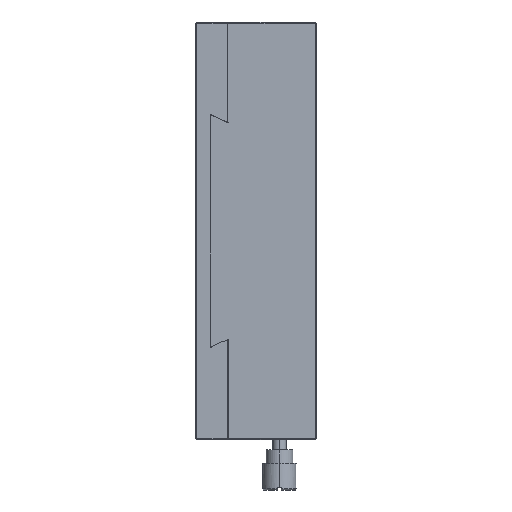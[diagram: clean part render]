
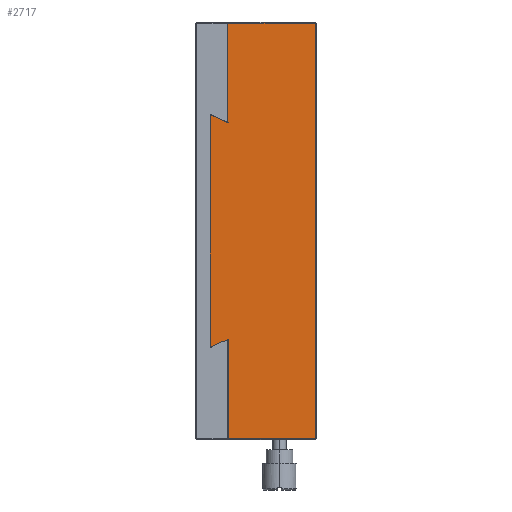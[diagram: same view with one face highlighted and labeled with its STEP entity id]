
A CAD part, left-side view. The second image highlights one B-rep face of the part: STEP entity #2717.
In plain terms, the highlighted planar face has unit normal (-1, 0, 0).
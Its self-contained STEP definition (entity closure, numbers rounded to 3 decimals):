
#482 = DIRECTION ( 'NONE',  ( 0., 0., 1. ) ) ;
#576 = ORIENTED_EDGE ( 'NONE', *, *, #7494, .F. ) ;
#798 = ORIENTED_EDGE ( 'NONE', *, *, #8190, .F. ) ;
#1395 = CARTESIAN_POINT ( 'NONE',  ( -62.5, 26.413, 32.4 ) ) ;
#1407 = CARTESIAN_POINT ( 'NONE',  ( -62.5, 33., -62.5 ) ) ;
#1762 = CARTESIAN_POINT ( 'NONE',  ( -62.5, 26.327, -32.361 ) ) ;
#2024 = VECTOR ( 'NONE', #13683, 1000. ) ;
#2120 = EDGE_CURVE ( 'NONE', #5990, #15534, #5435, .T. ) ;
#2146 = EDGE_CURVE ( 'NONE', #7286, #10937, #14342, .T. ) ;
#2260 = DIRECTION ( 'NONE',  ( 0., 1., 0. ) ) ;
#2349 = DIRECTION ( 'NONE',  ( 0., 0., -1. ) ) ;
#2717 = ADVANCED_FACE ( 'NONE', ( #2855 ), #14669, .F. ) ;
#2750 = EDGE_CURVE ( 'NONE', #6861, #7286, #3319, .T. ) ;
#2855 = FACE_OUTER_BOUND ( 'NONE', #15969, .T. ) ;
#3042 = DIRECTION ( 'NONE',  ( 1., 0., 0. ) ) ;
#3173 = VECTOR ( 'NONE', #2260, 1000. ) ;
#3303 = ORIENTED_EDGE ( 'NONE', *, *, #12933, .T. ) ;
#3319 = LINE ( 'NONE', #10863, #2024 ) ;
#3735 = ORIENTED_EDGE ( 'NONE', *, *, #16793, .T. ) ;
#3990 = CARTESIAN_POINT ( 'NONE',  ( -62.5, 33., 62.2 ) ) ;
#4170 = VECTOR ( 'NONE', #11437, 1000. ) ;
#4592 = VECTOR ( 'NONE', #482, 1000. ) ;
#5190 = CARTESIAN_POINT ( 'NONE',  ( -62.5, 26.413, 62.2 ) ) ;
#5365 = CARTESIAN_POINT ( 'NONE',  ( -62.5, 26.327, -32.361 ) ) ;
#5435 = LINE ( 'NONE', #14154, #15935 ) ;
#5706 = CARTESIAN_POINT ( 'NONE',  ( -62.5, 31.661, 34.809 ) ) ;
#5990 = VERTEX_POINT ( 'NONE', #5190 ) ;
#6343 = AXIS2_PLACEMENT_3D ( 'NONE', #1407, #3042, #7487 ) ;
#6516 = CARTESIAN_POINT ( 'NONE',  ( -62.5, 31.661, 34.809 ) ) ;
#6572 = CARTESIAN_POINT ( 'NONE',  ( -62.5, 26.327, -62.5 ) ) ;
#6667 = LINE ( 'NONE', #6572, #9502 ) ;
#6686 = VERTEX_POINT ( 'NONE', #1762 ) ;
#6861 = VERTEX_POINT ( 'NONE', #8804 ) ;
#7283 = ORIENTED_EDGE ( 'NONE', *, *, #17081, .T. ) ;
#7286 = VERTEX_POINT ( 'NONE', #12851 ) ;
#7376 = B_SPLINE_CURVE_WITH_KNOTS ( 'NONE', 3,
 ( #18611, #10950, #15526, #6516 ),
 .UNSPECIFIED., .F., .F.,
 ( 4, 4 ),
 ( 0.053, 0.059 ),
 .UNSPECIFIED. ) ;
#7487 = DIRECTION ( 'NONE',  ( 0., 0., -1. ) ) ;
#7494 = EDGE_CURVE ( 'NONE', #6686, #15831, #14818, .T. ) ;
#8190 = EDGE_CURVE ( 'NONE', #15831, #10420, #12404, .T. ) ;
#8804 = CARTESIAN_POINT ( 'NONE',  ( -62.5, 26.327, -62.2 ) ) ;
#9502 = VECTOR ( 'NONE', #12584, 1000. ) ;
#10023 = ORIENTED_EDGE ( 'NONE', *, *, #2146, .T. ) ;
#10420 = VERTEX_POINT ( 'NONE', #5706 ) ;
#10863 = CARTESIAN_POINT ( 'NONE',  ( -62.5, 0., -62.2 ) ) ;
#10927 = CARTESIAN_POINT ( 'NONE',  ( -62.5, 31.661, 0. ) ) ;
#10937 = VERTEX_POINT ( 'NONE', #14685 ) ;
#10950 = CARTESIAN_POINT ( 'NONE',  ( -62.5, 28.159, 33.211 ) ) ;
#11415 = ORIENTED_EDGE ( 'NONE', *, *, #2120, .T. ) ;
#11437 = DIRECTION ( 'NONE',  ( 0., 0., 1. ) ) ;
#12404 = LINE ( 'NONE', #10927, #4592 ) ;
#12584 = DIRECTION ( 'NONE',  ( 0., 0., -1. ) ) ;
#12797 = CARTESIAN_POINT ( 'NONE',  ( -62.5, 0.3, 62.5 ) ) ;
#12851 = CARTESIAN_POINT ( 'NONE',  ( -62.5, 0.3, -62.2 ) ) ;
#12933 = EDGE_CURVE ( 'NONE', #10937, #5990, #17174, .T. ) ;
#13683 = DIRECTION ( 'NONE',  ( 0., -1., 0. ) ) ;
#14154 = CARTESIAN_POINT ( 'NONE',  ( -62.5, 26.413, -62.5 ) ) ;
#14280 = CARTESIAN_POINT ( 'NONE',  ( -62.5, 29.879, -34.001 ) ) ;
#14342 = LINE ( 'NONE', #12797, #4170 ) ;
#14636 = CARTESIAN_POINT ( 'NONE',  ( -62.5, 31.661, -34.809 ) ) ;
#14669 = PLANE ( 'NONE',  #6343 ) ;
#14685 = CARTESIAN_POINT ( 'NONE',  ( -62.5, 0.3, 62.2 ) ) ;
#14818 = B_SPLINE_CURVE_WITH_KNOTS ( 'NONE', 3,
 ( #5365, #15542, #14280, #15454 ),
 .UNSPECIFIED., .F., .F.,
 ( 4, 4 ),
 ( 0.053, 0.059 ),
 .UNSPECIFIED. ) ;
#15454 = CARTESIAN_POINT ( 'NONE',  ( -62.5, 31.661, -34.809 ) ) ;
#15526 = CARTESIAN_POINT ( 'NONE',  ( -62.5, 29.908, 34.014 ) ) ;
#15534 = VERTEX_POINT ( 'NONE', #1395 ) ;
#15542 = CARTESIAN_POINT ( 'NONE',  ( -62.5, 28.101, -33.185 ) ) ;
#15831 = VERTEX_POINT ( 'NONE', #14636 ) ;
#15935 = VECTOR ( 'NONE', #2349, 1000. ) ;
#15969 = EDGE_LOOP ( 'NONE', ( #7283, #16501, #10023, #3303, #11415, #3735, #798, #576 ) ) ;
#16501 = ORIENTED_EDGE ( 'NONE', *, *, #2750, .T. ) ;
#16793 = EDGE_CURVE ( 'NONE', #15534, #10420, #7376, .T. ) ;
#17081 = EDGE_CURVE ( 'NONE', #6686, #6861, #6667, .T. ) ;
#17174 = LINE ( 'NONE', #3990, #3173 ) ;
#18611 = CARTESIAN_POINT ( 'NONE',  ( -62.5, 26.413, 32.4 ) ) ;
